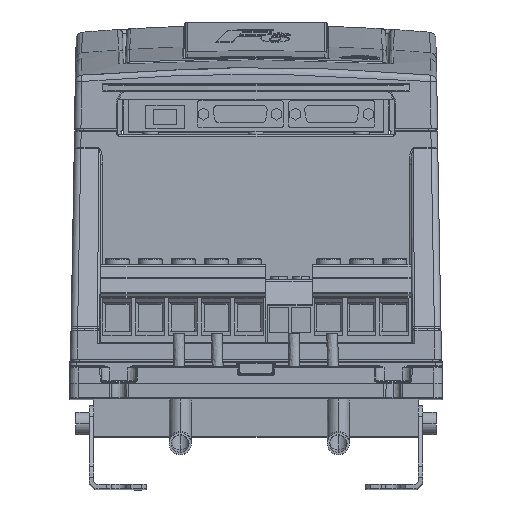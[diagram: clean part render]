
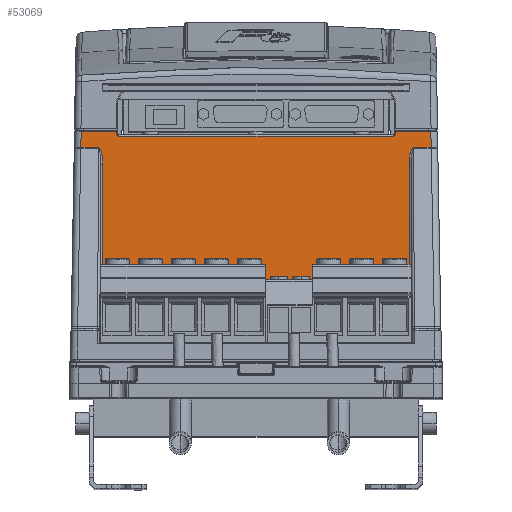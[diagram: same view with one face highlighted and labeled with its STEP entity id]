
A CAD part, top view. The second image highlights one B-rep face of the part: STEP entity #53069.
In plain terms, the highlighted planar face has unit normal (0, 0, 1).
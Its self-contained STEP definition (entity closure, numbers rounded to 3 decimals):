
#127 = CARTESIAN_POINT ( 'NONE',  ( 63.5, 48.6, 124. ) ) ;
#1931 = VERTEX_POINT ( 'NONE', #12726 ) ;
#3104 = ORIENTED_EDGE ( 'NONE', *, *, #66135, .T. ) ;
#3257 =( BOUNDED_CURVE ( )  B_SPLINE_CURVE ( 3, ( #62887, #12069, #21133, #32488 ),
 .UNSPECIFIED., .F., .T. ) 
 B_SPLINE_CURVE_WITH_KNOTS ( ( 4, 4 ),
 ( 6.282, 7.836 ),
 .UNSPECIFIED. ) 
 CURVE ( )  GEOMETRIC_REPRESENTATION_ITEM ( )  RATIONAL_B_SPLINE_CURVE ( ( 1., 0.809, 0.809, 1. ) ) 
 REPRESENTATION_ITEM ( '' )  );
#3426 = VERTEX_POINT ( 'NONE', #6892 ) ;
#3504 = CIRCLE ( 'NONE', #37741, 1. ) ;
#3777 = CARTESIAN_POINT ( 'NONE',  ( -63.5, 47.6, 124. ) ) ;
#3921 = EDGE_CURVE ( 'NONE', #30043, #53246, #48668, .T. ) ;
#4260 = CARTESIAN_POINT ( 'NONE',  ( -71.729, 41.234, 124. ) ) ;
#4760 = EDGE_CURVE ( 'NONE', #9698, #33633, #48757, .T. ) ;
#5824 = VERTEX_POINT ( 'NONE', #4260 ) ;
#6840 = ORIENTED_EDGE ( 'NONE', *, *, #15066, .F. ) ;
#6892 = CARTESIAN_POINT ( 'NONE',  ( -62.5, 46.6, 124. ) ) ;
#7422 = VERTEX_POINT ( 'NONE', #29448 ) ;
#7678 = DIRECTION ( 'NONE',  ( -1., 0., 0. ) ) ;
#8563 = CARTESIAN_POINT ( 'NONE',  ( 62.5, 46.6, 124. ) ) ;
#8966 = CARTESIAN_POINT ( 'NONE',  ( 69.763, 38.164, 124. ) ) ;
#9698 = VERTEX_POINT ( 'NONE', #51518 ) ;
#10993 = CARTESIAN_POINT ( 'NONE',  ( -63.5, 48.6, 124. ) ) ;
#12069 = CARTESIAN_POINT ( 'NONE',  ( -70.573, 41.234, 124. ) ) ;
#12726 = CARTESIAN_POINT ( 'NONE',  ( -79.633, 48.6, 124. ) ) ;
#13110 = ORIENTED_EDGE ( 'NONE', *, *, #26315, .T. ) ;
#14054 = CARTESIAN_POINT ( 'NONE',  ( -71.729, 41.234, 124. ) ) ;
#14666 = CARTESIAN_POINT ( 'NONE',  ( -84.5, 48.6, 124. ) ) ;
#14843 = VERTEX_POINT ( 'NONE', #8563 ) ;
#14873 = CARTESIAN_POINT ( 'NONE',  ( -62.5, 47.6, 124. ) ) ;
#15066 = EDGE_CURVE ( 'NONE', #7422, #17953, #42361, .T. ) ;
#16159 = DIRECTION ( 'NONE',  ( 0., -1., 0. ) ) ;
#16604 = DIRECTION ( 'NONE',  ( -1., 0., 0. ) ) ;
#17205 = DIRECTION ( 'NONE',  ( -1., 0., 0. ) ) ;
#17318 = ORIENTED_EDGE ( 'NONE', *, *, #4760, .T. ) ;
#17731 = VECTOR ( 'NONE', #16159, 1000. ) ;
#17953 = VERTEX_POINT ( 'NONE', #35104 ) ;
#18373 = EDGE_CURVE ( 'NONE', #1931, #40360, #47076, .T. ) ;
#18524 = CARTESIAN_POINT ( 'NONE',  ( -63.5, 89.215, 124. ) ) ;
#19035 = ORIENTED_EDGE ( 'NONE', *, *, #39953, .T. ) ;
#19767 = ORIENTED_EDGE ( 'NONE', *, *, #54905, .T. ) ;
#20295 = VECTOR ( 'NONE', #65538, 1000. ) ;
#20904 = DIRECTION ( 'NONE',  ( 0., -1., 0. ) ) ;
#21133 = CARTESIAN_POINT ( 'NONE',  ( -69.763, 38.164, 124. ) ) ;
#21542 = VECTOR ( 'NONE', #44162, 1000. ) ;
#22225 = EDGE_CURVE ( 'NONE', #65556, #17953, #56367, .T. ) ;
#22430 = PLANE ( 'NONE',  #49956 ) ;
#22696 = VECTOR ( 'NONE', #54247, 1000. ) ;
#22772 = FACE_OUTER_BOUND ( 'NONE', #34949, .T. ) ;
#23461 = LINE ( 'NONE', #59557, #22696 ) ;
#23477 = CARTESIAN_POINT ( 'NONE',  ( 63.5, 47.6, 124. ) ) ;
#23672 = VECTOR ( 'NONE', #28883, 1000. ) ;
#23954 = CARTESIAN_POINT ( 'NONE',  ( 79.767, 41.234, 124. ) ) ;
#24268 = DIRECTION ( 'NONE',  ( 1., 0., 0. ) ) ;
#25252 = CIRCLE ( 'NONE', #41314, 1. ) ;
#25680 = CARTESIAN_POINT ( 'NONE',  ( 69.763, 33.786, 124. ) ) ;
#26134 = VECTOR ( 'NONE', #17205, 1000. ) ;
#26315 = EDGE_CURVE ( 'NONE', #32695, #40094, #53144, .T. ) ;
#27432 = DIRECTION ( 'NONE',  ( 0., 0., 1. ) ) ;
#28411 = VECTOR ( 'NONE', #48862, 1000. ) ;
#28883 = DIRECTION ( 'NONE',  ( 0., 1., 0. ) ) ;
#29232 = ORIENTED_EDGE ( 'NONE', *, *, #37654, .T. ) ;
#29448 = CARTESIAN_POINT ( 'NONE',  ( 69.763, -47.4, 124. ) ) ;
#29622 = DIRECTION ( 'NONE',  ( -1., 0., 0. ) ) ;
#29735 = ORIENTED_EDGE ( 'NONE', *, *, #22225, .T. ) ;
#29877 = ORIENTED_EDGE ( 'NONE', *, *, #41607, .T. ) ;
#30043 = VERTEX_POINT ( 'NONE', #3777 ) ;
#30739 = VECTOR ( 'NONE', #16604, 1000. ) ;
#31373 = VECTOR ( 'NONE', #20904, 1000. ) ;
#31540 = CARTESIAN_POINT ( 'NONE',  ( 63.5, 89.215, 124. ) ) ;
#32488 = CARTESIAN_POINT ( 'NONE',  ( -69.763, 33.786, 124. ) ) ;
#32695 = VERTEX_POINT ( 'NONE', #42500 ) ;
#33109 = DIRECTION ( 'NONE',  ( 0., 0., -1. ) ) ;
#33320 = VECTOR ( 'NONE', #62416, 1000. ) ;
#33633 = VERTEX_POINT ( 'NONE', #37622 ) ;
#34391 = CARTESIAN_POINT ( 'NONE',  ( 71.729, 41.234, 124. ) ) ;
#34478 = LINE ( 'NONE', #14054, #20295 ) ;
#34949 = EDGE_LOOP ( 'NONE', ( #6840, #3104, #13110, #19767, #17318, #35904, #29232, #44838, #19035, #46690, #57821, #50276, #56668, #59677, #29877, #29735 ) ) ;
#35104 = CARTESIAN_POINT ( 'NONE',  ( -69.763, -47.4, 124. ) ) ;
#35455 = VECTOR ( 'NONE', #55095, 1000. ) ;
#35904 = ORIENTED_EDGE ( 'NONE', *, *, #45529, .T. ) ;
#37317 = CARTESIAN_POINT ( 'NONE',  ( 49.191, 46.6, 124. ) ) ;
#37622 = CARTESIAN_POINT ( 'NONE',  ( 79.633, 48.6, 124. ) ) ;
#37641 = CARTESIAN_POINT ( 'NONE',  ( -84.5, -47.4, 124. ) ) ;
#37654 = EDGE_CURVE ( 'NONE', #43372, #48107, #41620, .T. ) ;
#37741 = AXIS2_PLACEMENT_3D ( 'NONE', #57538, #27432, #42511 ) ;
#38119 = CARTESIAN_POINT ( 'NONE',  ( -84.5, 48.6, 124. ) ) ;
#38157 = EDGE_CURVE ( 'NONE', #53246, #1931, #54534, .T. ) ;
#39445 = CARTESIAN_POINT ( 'NONE',  ( 70.573, 41.234, 124. ) ) ;
#39953 = EDGE_CURVE ( 'NONE', #14843, #3426, #51757, .T. ) ;
#40094 = VERTEX_POINT ( 'NONE', #44362 ) ;
#40360 = VERTEX_POINT ( 'NONE', #52664 ) ;
#41314 = AXIS2_PLACEMENT_3D ( 'NONE', #14873, #60050, #29622 ) ;
#41607 = EDGE_CURVE ( 'NONE', #5824, #65556, #3257, .T. ) ;
#41620 = LINE ( 'NONE', #31540, #17731 ) ;
#42361 = LINE ( 'NONE', #37641, #26134 ) ;
#42500 = CARTESIAN_POINT ( 'NONE',  ( 69.763, 33.786, 124. ) ) ;
#42511 = DIRECTION ( 'NONE',  ( -1., 0., 0. ) ) ;
#43372 = VERTEX_POINT ( 'NONE', #127 ) ;
#43383 = LINE ( 'NONE', #23954, #44754 ) ;
#44026 = EDGE_CURVE ( 'NONE', #40360, #5824, #34478, .T. ) ;
#44162 = DIRECTION ( 'NONE',  ( -1., 0., 0. ) ) ;
#44362 = CARTESIAN_POINT ( 'NONE',  ( 71.729, 41.234, 124. ) ) ;
#44754 = VECTOR ( 'NONE', #24268, 1000. ) ;
#44838 = ORIENTED_EDGE ( 'NONE', *, *, #48230, .F. ) ;
#45529 = EDGE_CURVE ( 'NONE', #33633, #43372, #63492, .T. ) ;
#46690 = ORIENTED_EDGE ( 'NONE', *, *, #51852, .F. ) ;
#47076 = LINE ( 'NONE', #61733, #33320 ) ;
#47339 = CARTESIAN_POINT ( 'NONE',  ( -69.763, 89.215, 124. ) ) ;
#48107 = VERTEX_POINT ( 'NONE', #23477 ) ;
#48230 = EDGE_CURVE ( 'NONE', #14843, #48107, #3504, .T. ) ;
#48668 = LINE ( 'NONE', #18524, #23672 ) ;
#48757 = LINE ( 'NONE', #60066, #35455 ) ;
#48862 = DIRECTION ( 'NONE',  ( -1., 0., 0. ) ) ;
#49956 = AXIS2_PLACEMENT_3D ( 'NONE', #57245, #33109, #7678 ) ;
#50276 = ORIENTED_EDGE ( 'NONE', *, *, #38157, .T. ) ;
#51518 = CARTESIAN_POINT ( 'NONE',  ( 79.765, 41.234, 124. ) ) ;
#51757 = LINE ( 'NONE', #37317, #30739 ) ;
#51852 = EDGE_CURVE ( 'NONE', #30043, #3426, #25252, .T. ) ;
#52664 = CARTESIAN_POINT ( 'NONE',  ( -79.765, 41.234, 124. ) ) ;
#53069 = ADVANCED_FACE ( 'NONE', ( #22772 ), #22430, .F. ) ;
#53144 =( BOUNDED_CURVE ( )  B_SPLINE_CURVE ( 3, ( #25680, #8966, #39445, #34391 ),
 .UNSPECIFIED., .F., .T. ) 
 B_SPLINE_CURVE_WITH_KNOTS ( ( 4, 4 ),
 ( 4.73, 6.284 ),
 .UNSPECIFIED. ) 
 CURVE ( )  GEOMETRIC_REPRESENTATION_ITEM ( )  RATIONAL_B_SPLINE_CURVE ( ( 1., 0.809, 0.809, 1. ) ) 
 REPRESENTATION_ITEM ( '' )  );
#53246 = VERTEX_POINT ( 'NONE', #10993 ) ;
#53839 = CARTESIAN_POINT ( 'NONE',  ( -69.763, 33.786, 124. ) ) ;
#54247 = DIRECTION ( 'NONE',  ( 0., 1., 0. ) ) ;
#54534 = LINE ( 'NONE', #14666, #28411 ) ;
#54905 = EDGE_CURVE ( 'NONE', #40094, #9698, #43383, .T. ) ;
#55095 = DIRECTION ( 'NONE',  ( -0.018, 1., 0. ) ) ;
#56367 = LINE ( 'NONE', #47339, #31373 ) ;
#56668 = ORIENTED_EDGE ( 'NONE', *, *, #18373, .T. ) ;
#57245 = CARTESIAN_POINT ( 'NONE',  ( -84.5, 89.215, 124. ) ) ;
#57538 = CARTESIAN_POINT ( 'NONE',  ( 62.5, 47.6, 124. ) ) ;
#57821 = ORIENTED_EDGE ( 'NONE', *, *, #3921, .T. ) ;
#59557 = CARTESIAN_POINT ( 'NONE',  ( 69.763, 89.215, 124. ) ) ;
#59677 = ORIENTED_EDGE ( 'NONE', *, *, #44026, .T. ) ;
#60050 = DIRECTION ( 'NONE',  ( 0., 0., 1. ) ) ;
#60066 = CARTESIAN_POINT ( 'NONE',  ( 78.857, 92.127, 124. ) ) ;
#61733 = CARTESIAN_POINT ( 'NONE',  ( -78.911, 89.115, 124. ) ) ;
#62416 = DIRECTION ( 'NONE',  ( -0.018, -1., 0. ) ) ;
#62887 = CARTESIAN_POINT ( 'NONE',  ( -71.729, 41.234, 124. ) ) ;
#63492 = LINE ( 'NONE', #38119, #21542 ) ;
#65538 = DIRECTION ( 'NONE',  ( 1., 0., 0. ) ) ;
#65556 = VERTEX_POINT ( 'NONE', #53839 ) ;
#66135 = EDGE_CURVE ( 'NONE', #7422, #32695, #23461, .T. ) ;
